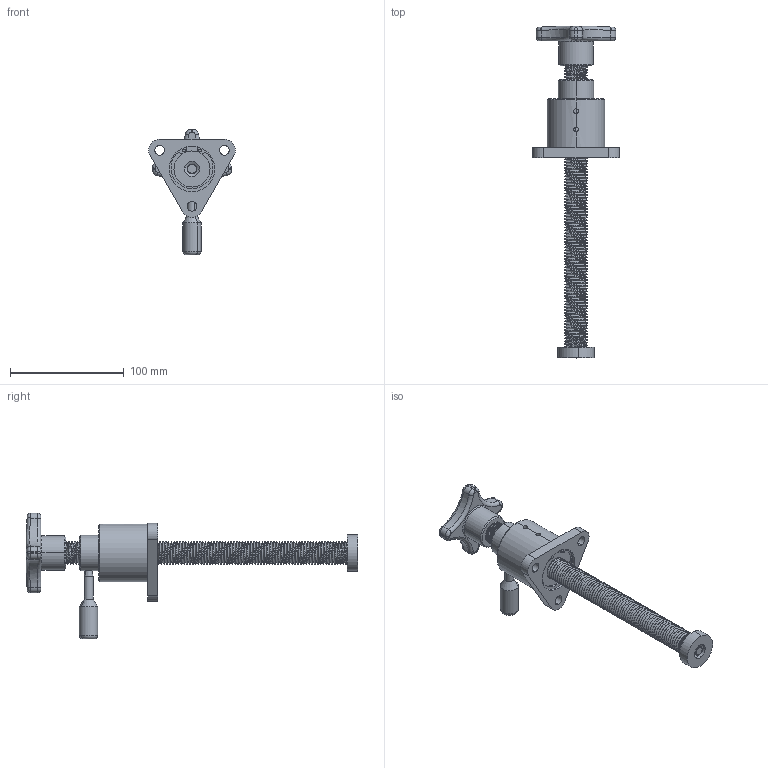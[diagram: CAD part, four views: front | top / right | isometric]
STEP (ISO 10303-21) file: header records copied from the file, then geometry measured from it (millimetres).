
FILE_DESCRIPTION (( 'STEP AP203' ), '1' );
FILE_NAME ('KFRF-20.STEP', '2012-06-14T16:42:07', ( 'Usuario' ), ( '' ), 'SwSTEP 2.0', 'SolidWorks 2011', '' );
FILE_SCHEMA (( 'CONFIG_CONTROL_DESIGN' ));
Products named in the file (13): KFRF-20; 18.10015; 502-040; 16.20073; 13.50001; 20.20022; 18.30003; 15.30005; 15.30003; 15.30002; 15.30001; 12.50025; 02.30017
Assembly tree (15 placements, depth 2):
  KFRF-20
    18.30003  x3
    02.30017
    15.30001
    502-040
    15.30002
    13.50001
    15.30005
    16.20073
    15.30003
    18.10015  x2
    12.50025
    20.20022
Bounding box: 76.2 x 291.98 x 110.5 mm (x, y, z)
Volume: 214406.4 mm3; surface area: 90345.5 mm2
Topology: 15 solids, 15 shells, 684 faces, 1867 edges, 1214 vertices
Faces by surface type: cylinder 375, bspline 147, plane 90, cone 38, torus 32, sphere 2
Entity records: 70240 total; most frequent: CARTESIAN_POINT 56782, ORIENTED_EDGE 2910, DIRECTION 2188, EDGE_CURVE 1455, VERTEX_POINT 942, AXIS2_PLACEMENT_3D 848, EDGE_LOOP 569, ADVANCED_FACE 538
